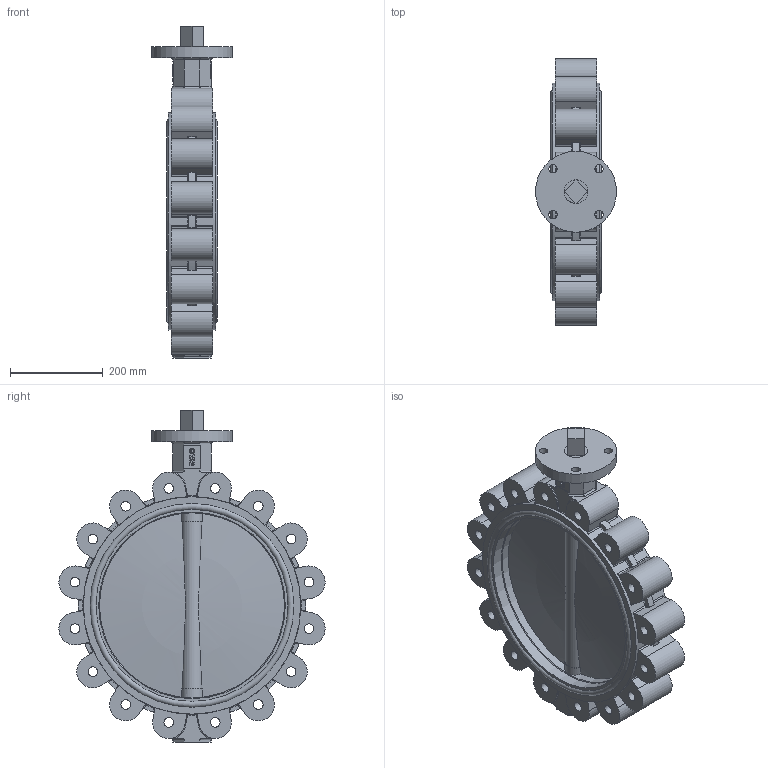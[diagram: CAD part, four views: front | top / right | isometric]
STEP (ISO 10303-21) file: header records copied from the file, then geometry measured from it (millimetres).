
FILE_DESCRIPTION(('STEP AP242'), '1');
FILE_NAME('Ïîâîðîòíûé çàòâîð ïîä ýëåêòðîïðèâîä', '', ('UNSPECIFIED'), ('UNSPECIFIED'), 'C3D Converter', 'C3D Toolkit', '');
FILE_SCHEMA(('AP242_MANAGED_MODEL_BASED_3D_ENGINEERING_MIM_LF { 1 0 10303 442 1 1 4 }'));
Length unit declared in the file: millimetre
Products named in the file (6): П
Assembly tree (6 placements, depth 2):
  (unnamed)
    (unnamed)
    П  x2
    (unnamed)
    (unnamed)
    (unnamed)
Bounding box: 175 x 575.09 x 717 mm (x, y, z)
Volume: 14233637.7 mm3; surface area: 1606794.3 mm2
Topology: 6 solids, 6 shells, 745 faces, 1932 edges, 1232 vertices
Faces by surface type: plane 278, cylinder 234, extrusion 119, torus 106, cone 4, sphere 4
Full cylindrical faces by diameter (mm): 11.421 x1, 18 x4, 20.752 x16, 36 x5, 39.6 x1, 48.45 x4, 50.912 x5, 175 x1, 400 x1, 403 x2, 415 x2, 427.5 x4, 440 x4, 469.633 x2
Entity records: 28757 total; most frequent: CARTESIAN_POINT 8824, ORIENTED_EDGE 3732, DIRECTION 3506, EDGE_CURVE 1866, AXIS2_PLACEMENT_3D 1248, VERTEX_POINT 1227, VECTOR 1010, LINE 891
